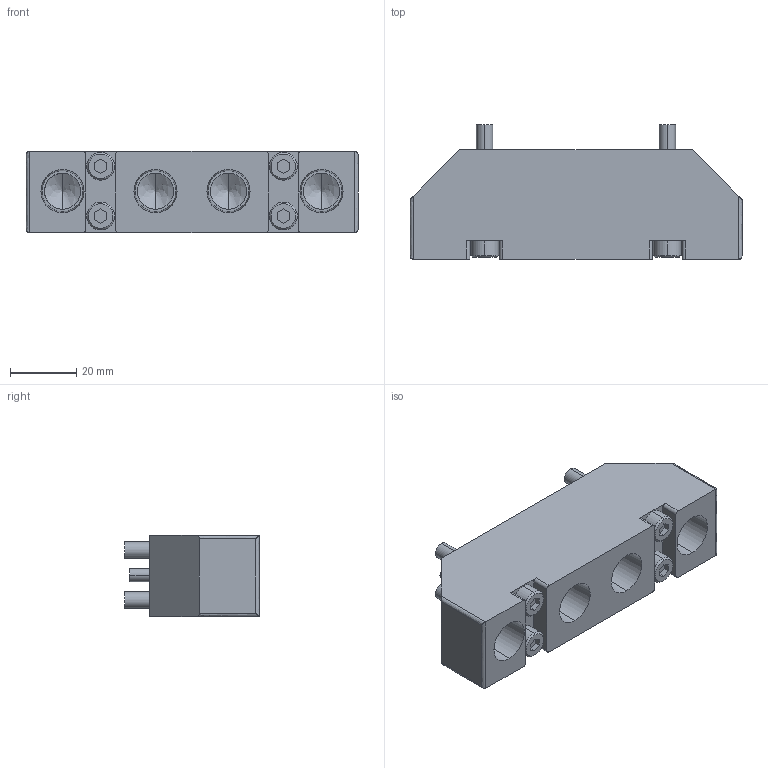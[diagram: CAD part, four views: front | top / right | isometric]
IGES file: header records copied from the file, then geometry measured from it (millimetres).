
Start section: 3D InterOp IGES (v. 2022 1.0.0), Spatial Corp. Copyright (c) 1999-2020.
Global section: file name: KHB-45~300RS-EP84_ver1.igs; native system: Spatial Corp.; preprocessor: 3D InterOp GENERIC/IGES 3.0; author: Noname; organization: Noname; date: 20260427.144856; units: millimetre
Bounding box: 100 x 40.5 x 24.5 mm (x, y, z)
Surface area: 20809.7 mm2 (no closed solid volume)
Topology: 0 solids, 0 shells, 163 faces, 780 edges, 772 vertices
Faces by surface type: revolution 95, extrusion 68
